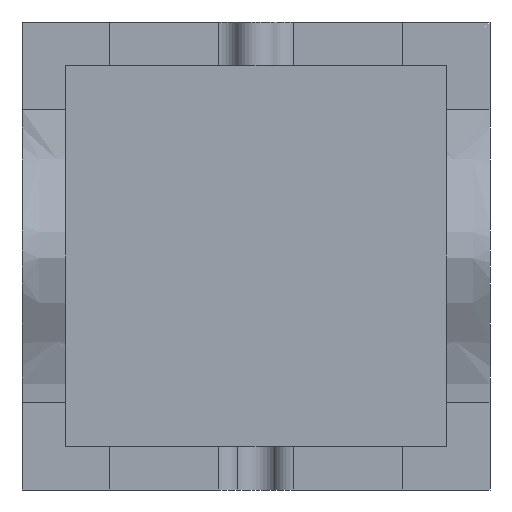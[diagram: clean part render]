
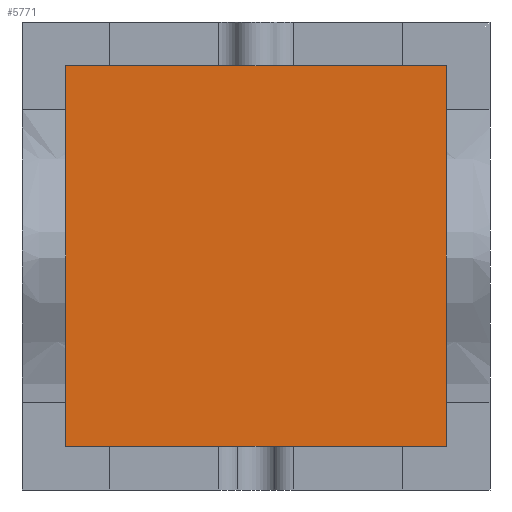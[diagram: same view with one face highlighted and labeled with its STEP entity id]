
A CAD part, front view. The second image highlights one B-rep face of the part: STEP entity #5771.
In plain terms, the highlighted planar face has unit normal (0, -1, 0).
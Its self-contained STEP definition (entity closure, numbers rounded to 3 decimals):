
#5645=CARTESIAN_POINT('Vertex',(-20.,-30.,-20.)) ;
#5650=CARTESIAN_POINT('Line Origine',(-20.,-30.,67.5)) ;
#5654=CARTESIAN_POINT('Vertex',(-20.,-30.,155.)) ;
#5681=CARTESIAN_POINT('Line Origine',(67.5,-30.,155.)) ;
#5685=CARTESIAN_POINT('Vertex',(155.,-30.,155.)) ;
#5712=CARTESIAN_POINT('Line Origine',(155.,-30.,67.5)) ;
#5716=CARTESIAN_POINT('Vertex',(155.,-30.,-20.)) ;
#5743=CARTESIAN_POINT('Line Origine',(67.5,-30.,-20.)) ;
#5760=CARTESIAN_POINT('Axis2P3D Location',(0.,-30.,0.)) ;
#5651=DIRECTION('Vector Direction',(0.,0.,-1.)) ;
#5682=DIRECTION('Vector Direction',(1.,0.,0.)) ;
#5713=DIRECTION('Vector Direction',(0.,0.,1.)) ;
#5744=DIRECTION('Vector Direction',(-1.,0.,0.)) ;
#5761=DIRECTION('Axis2P3D Direction',(0.,1.,0.)) ;
#5762=DIRECTION('Axis2P3D XDirection',(-1.,0.,0.)) ;
#5763=AXIS2_PLACEMENT_3D('Plane Axis2P3D',#5760,#5761,#5762) ;
#5766=ORIENTED_EDGE('',*,*,#5747,.F.) ;
#5767=ORIENTED_EDGE('',*,*,#5718,.F.) ;
#5768=ORIENTED_EDGE('',*,*,#5687,.F.) ;
#5769=ORIENTED_EDGE('',*,*,#5656,.F.) ;
#5652=VECTOR('Line Direction',#5651,1.) ;
#5683=VECTOR('Line Direction',#5682,1.) ;
#5714=VECTOR('Line Direction',#5713,1.) ;
#5745=VECTOR('Line Direction',#5744,1.) ;
#5771=ADVANCED_FACE('Cavity-molde',(#5770),#5764,.F.) ;
#5656=EDGE_CURVE('',#5646,#5655,#5653,.F.) ;
#5687=EDGE_CURVE('',#5655,#5686,#5684,.T.) ;
#5718=EDGE_CURVE('',#5686,#5717,#5715,.F.) ;
#5747=EDGE_CURVE('',#5717,#5646,#5746,.T.) ;
#5765=EDGE_LOOP('',(#5766,#5767,#5768,#5769)) ;
#5770=FACE_OUTER_BOUND('',#5765,.T.) ;
#5653=LINE('Line',#5650,#5652) ;
#5684=LINE('Line',#5681,#5683) ;
#5715=LINE('Line',#5712,#5714) ;
#5746=LINE('Line',#5743,#5745) ;
#5764=PLANE('',#5763) ;
#5646=VERTEX_POINT('',#5645) ;
#5655=VERTEX_POINT('',#5654) ;
#5686=VERTEX_POINT('',#5685) ;
#5717=VERTEX_POINT('',#5716) ;
